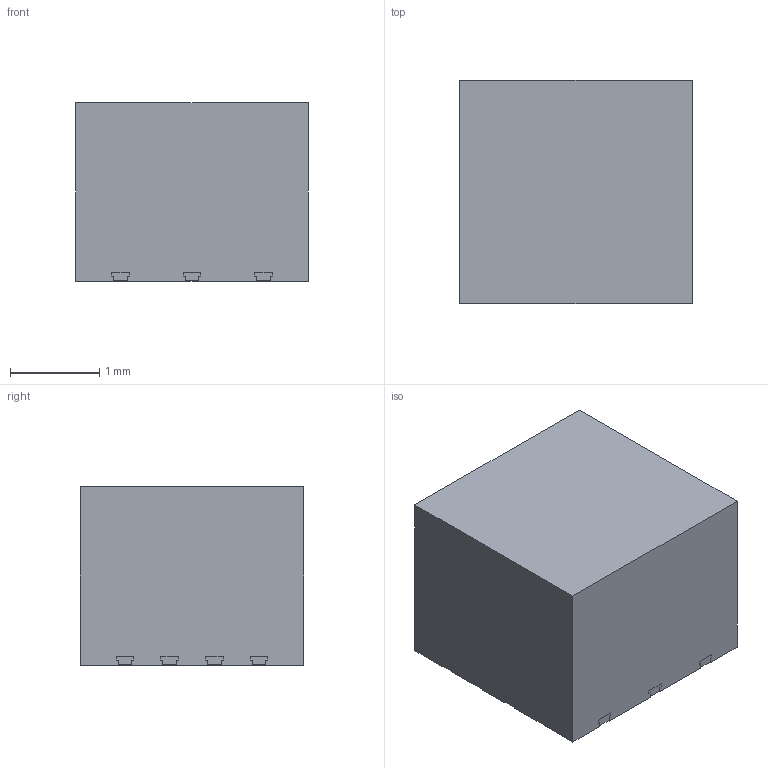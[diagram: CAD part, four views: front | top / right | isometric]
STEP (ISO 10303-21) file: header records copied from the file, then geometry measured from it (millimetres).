
FILE_DESCRIPTION((''),'2;1');
FILE_NAME('VCB0010A_ASM','2023-08-28T10:09:48',('a0412086'),(''),'CREO PARAMETRIC BY PTC INC, 2018500','CREO PARAMETRIC BY PTC INC, 2018500','');
FILE_SCHEMA(('CONFIG_CONTROL_DESIGN','SHAPE_APPEARANCE_LAYERS_GROUPS'));
Length unit declared in the file: millimetre
Products named in the file (4): VCB0010A_FRAME; VCB0010A_BODY; VCB0010A_PIN1_AREA; VCB0010A_ASM
Assembly tree (3 placements, depth 2):
  VCB0010A_ASM
    VCB0010A_FRAME
    VCB0010A_BODY
    VCB0010A_PIN1_AREA
Bounding box: 2.6 x 2.5 x 2 mm (x, y, z)
Volume: 13 mm3; surface area: 42.2 mm2
Topology: 11 solids, 11 shells, 566 faces, 1632 edges, 1088 vertices
Faces by surface type: plane 400, cylinder 166
Entity records: 23715 total; most frequent: CARTESIAN_POINT 3293, ORIENTED_EDGE 3264, DIRECTION 3110, PRESENTATION_STYLE_ASSIGNMENT 1657, STYLED_ITEM 1643, CURVE_STYLE 1632, EDGE_CURVE 1632, VECTOR 1300
